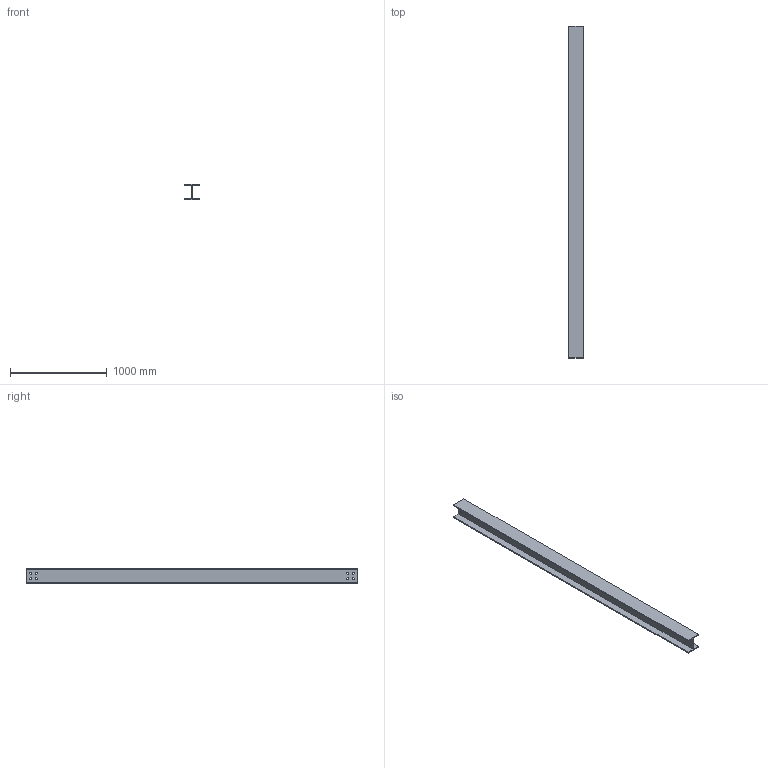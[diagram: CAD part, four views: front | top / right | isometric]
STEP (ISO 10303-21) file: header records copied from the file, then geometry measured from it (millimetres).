
FILE_DESCRIPTION(('Open CASCADE Model'),'2;1');
FILE_NAME('Open CASCADE Shape Model','2026-09-19T12:55:16',('Author'),( 'Open CASCADE'),'Open CASCADE STEP processor 7.9','Open CASCADE 7.9' ,'Unknown');
FILE_SCHEMA(('AUTOMOTIVE_DESIGN { 1 0 10303 214 1 1 1 1 }'));
Length unit declared in the file: millimetre
Products named in the file (1): Open CASCADE STEP translator 7.9 169
Bounding box: 154 x 3430 x 162 mm (x, y, z)
Volume: 16086351.8 mm3; surface area: 3176424.7 mm2
Topology: 1 solids, 1 shells, 22 faces, 60 edges, 40 vertices
Faces by surface type: plane 14, cylinder 8
Full cylindrical faces by diameter (mm): 22 x8
Entity records: 1546 total; most frequent: CARTESIAN_POINT 291, DIRECTION 234, LINE 148, VECTOR 148, ORIENTED_EDGE 120, PCURVE 120, DEFINITIONAL_REPRESENTATION 120, EDGE_CURVE 60
